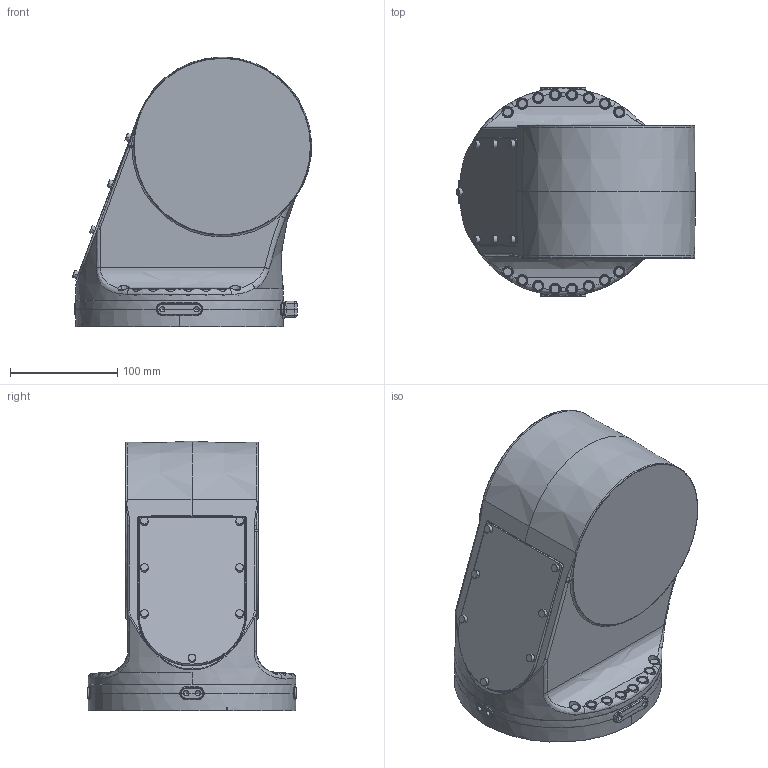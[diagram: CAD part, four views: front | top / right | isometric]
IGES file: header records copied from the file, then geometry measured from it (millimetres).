
Start section:  PTC IGES file: s_view_yr-n1-06vx7-c00.igs
Global section: file name: s_view_yr-n1-06vx7-c00.igs; native system: Creo Parametric by PTC Inc.; preprocessor: 2021072; author: mttm21; organization: Unknown; date: 20250919.181727; units: millimetre
Bounding box: 223.41 x 196 x 252.05 mm (x, y, z)
Volume: 5284193.9 mm3; surface area: 201812.3 mm2
Topology: 1 solids, 1 shells, 505 faces, 1272 edges, 789 vertices
Faces by surface type: revolution 326, bspline 179
